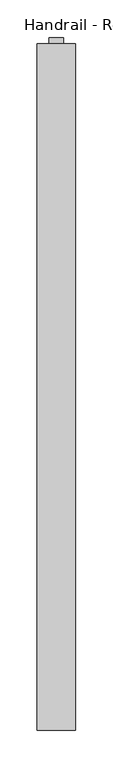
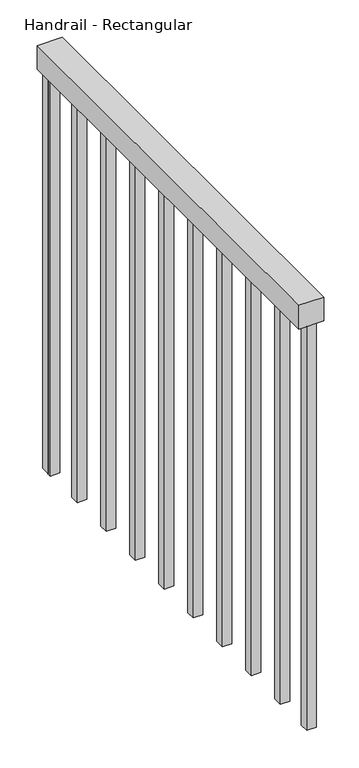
"""IFC4 building model written with IfcOpenShell, lengths in millimetres: railing geometry, Handrail - Rectangular."""

from ifc_helpers import new_model, si_unit, frame, origin, place, context, project, spatial, polyline, outline, extrude, source, transform, mapped, element, save


def handrail_rectangular_4e646063(model_context):
    return source(origin(), model_context, "Body", "SweptSolid", [
        extrude(outline(polyline([(-11029.0909741, 2259.3790009), (-11079.8909741, 2259.3790009), (-11079.8909741, 3175.2793907), (-11029.0909741, 3175.2793907), (-11029.0909741, 2259.3790009)])), frame((0.0, 0.0, 916.5411765), z_axis=(0.0, 0.0, 1.0), x_axis=(1.0, 0.0, 0.0)), (0.0, 0.0, 1.0), 50.8),
        extrude(outline(polyline([(-11044.9659741, 3164.2540009), (-11064.0159741, 3164.2540009), (-11064.0159741, 3183.3040009), (-11044.9659741, 3183.3040009), (-11044.9659741, 3164.2540009)])), frame((0.0, 0.0, 52.9411765), z_axis=(0.0, 0.0, 1.0), x_axis=(1.0, 0.0, 0.0)), (0.0, 0.0, 1.0), 863.6),
        extrude(outline(polyline([(-11044.9659741, 3062.6540009), (-11064.0159741, 3062.6540009), (-11064.0159741, 3081.7040009), (-11044.9659741, 3081.7040009), (-11044.9659741, 3062.6540009)])), frame((0.0, 0.0, 52.9411765), z_axis=(0.0, 0.0, 1.0), x_axis=(1.0, 0.0, 0.0)), (0.0, 0.0, 1.0), 863.6),
        extrude(outline(polyline([(-11044.9659741, 2961.0540009), (-11064.0159741, 2961.0540009), (-11064.0159741, 2980.1040009), (-11044.9659741, 2980.1040009), (-11044.9659741, 2961.0540009)])), frame((0.0, 0.0, 52.9411765), z_axis=(0.0, 0.0, 1.0), x_axis=(1.0, 0.0, 0.0)), (0.0, 0.0, 1.0), 863.6),
        extrude(outline(polyline([(-11044.9659741, 2859.4540009), (-11064.0159741, 2859.4540009), (-11064.0159741, 2878.5040009), (-11044.9659741, 2878.5040009), (-11044.9659741, 2859.4540009)])), frame((0.0, 0.0, 52.9411765), z_axis=(0.0, 0.0, 1.0), x_axis=(1.0, 0.0, 0.0)), (0.0, 0.0, 1.0), 863.6),
        extrude(outline(polyline([(-11044.9659741, 2757.8540009), (-11064.0159741, 2757.8540009), (-11064.0159741, 2776.9040009), (-11044.9659741, 2776.9040009), (-11044.9659741, 2757.8540009)])), frame((0.0, 0.0, 52.9411765), z_axis=(0.0, 0.0, 1.0), x_axis=(1.0, 0.0, 0.0)), (0.0, 0.0, 1.0), 863.6),
        extrude(outline(polyline([(-11044.9659741, 2656.2540009), (-11064.0159741, 2656.2540009), (-11064.0159741, 2675.3040009), (-11044.9659741, 2675.3040009), (-11044.9659741, 2656.2540009)])), frame((0.0, 0.0, 52.9411765), z_axis=(0.0, 0.0, 1.0), x_axis=(1.0, 0.0, 0.0)), (0.0, 0.0, 1.0), 863.6),
        extrude(outline(polyline([(-11044.9659741, 2554.6540009), (-11064.0159741, 2554.6540009), (-11064.0159741, 2573.7040009), (-11044.9659741, 2573.7040009), (-11044.9659741, 2554.6540009)])), frame((0.0, 0.0, 52.9411765), z_axis=(0.0, 0.0, 1.0), x_axis=(1.0, 0.0, 0.0)), (0.0, 0.0, 1.0), 863.6),
        extrude(outline(polyline([(-11044.9659741, 2453.0540009), (-11064.0159741, 2453.0540009), (-11064.0159741, 2472.1040009), (-11044.9659741, 2472.1040009), (-11044.9659741, 2453.0540009)])), frame((0.0, 0.0, 52.9411765), z_axis=(0.0, 0.0, 1.0), x_axis=(1.0, 0.0, 0.0)), (0.0, 0.0, 1.0), 863.6),
        extrude(outline(polyline([(-11044.9659741, 2351.4540009), (-11064.0159741, 2351.4540009), (-11064.0159741, 2370.5040009), (-11044.9659741, 2370.5040009), (-11044.9659741, 2351.4540009)])), frame((0.0, 0.0, 52.9411765), z_axis=(0.0, 0.0, 1.0), x_axis=(1.0, 0.0, 0.0)), (0.0, 0.0, 1.0), 863.6),
        extrude(outline(polyline([(-11044.9659741, 3156.2293907), (-11064.0159741, 3156.2293907), (-11064.0159741, 3175.2793907), (-11044.9659741, 3175.2793907), (-11044.9659741, 3156.2293907)])), frame((0.0, 0.0, 52.9411765), z_axis=(0.0, 0.0, 1.0), x_axis=(1.0, 0.0, 0.0)), (0.0, 0.0, 1.0), 863.6),
        extrude(outline(polyline([(-11044.9659741, 2259.3790009), (-11064.0159741, 2259.3790009), (-11064.0159741, 2278.4290009), (-11044.9659741, 2278.4290009), (-11044.9659741, 2259.3790009)])), frame((0.0, 0.0, 52.9411765), z_axis=(0.0, 0.0, 1.0), x_axis=(1.0, 0.0, 0.0)), (0.0, 0.0, 1.0), 863.6),
    ])


if __name__ == "__main__":
    model = new_model("IFC4")
    model_context = context("Model", 3, world=origin())
    ifc_project = project(units=[si_unit("LENGTHUNIT", "METRE", prefix="MILLI")], contexts=[model_context])
    site = spatial("IfcSite", under=ifc_project)
    building = spatial("IfcBuilding", under=site)
    placement = place(None, origin())
    handrail_rectangular_shape = handrail_rectangular_4e646063(model_context)
    element("IfcRailing", 1, ObjectType="Handrail - Rectangular", at=placement, inside=building, context=model_context, shape_type="MappedRepresentation", body=[
        mapped(handrail_rectangular_shape, transform((0.0, 0.0, 0.0), x_axis=(1.0, 0.0, 0.0), y_axis=(0.0, 1.0, 0.0), z_axis=(0.0, 0.0, 1.0))),
    ])
    save(model, "model.ifc")
